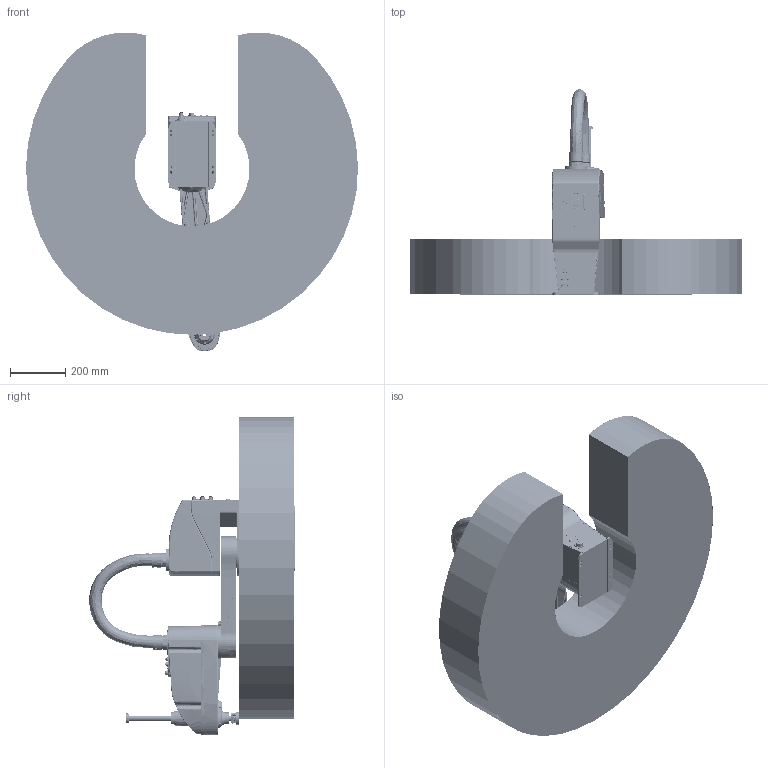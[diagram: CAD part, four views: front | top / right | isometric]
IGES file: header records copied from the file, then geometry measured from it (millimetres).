
Start section: SolidWorks IGES file using analytic representation for surfaces
Global section: file name: D:\PDM\QKM_PDM\01_SP研发\021AH6\05_对外发布模型\AH6-0600-0204-2000\IGS\AH6-0600-0204-2000-T0-2.0.0.IGS; native system: SolidWorks 2017; preprocessor: SolidWorks 2017; author: gsliang; date: 200423.160302; units: millimetre
Bounding box: 1199.9 x 743.22 x 1152.7 mm (x, y, z)
Surface area: 3928946.3 mm2 (no closed solid volume)
Topology: 0 solids, 0 shells, 6717 faces, 72175 edges, 72071 vertices
Faces by surface type: bspline 4993, revolution 1724
